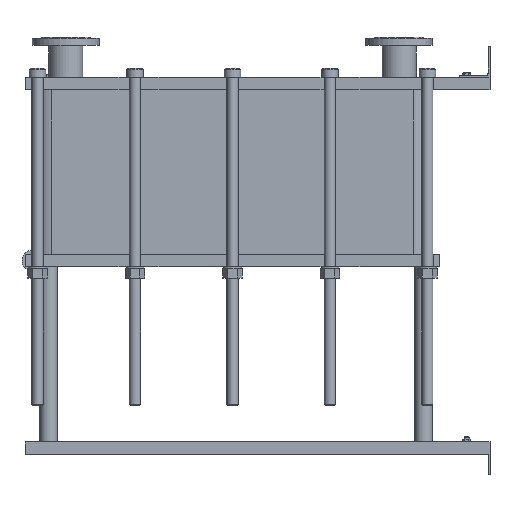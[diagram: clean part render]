
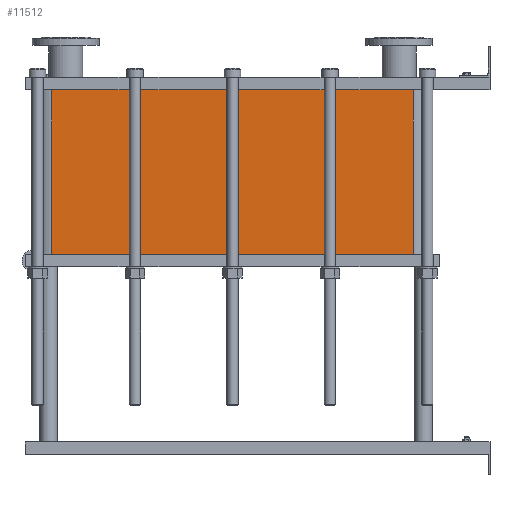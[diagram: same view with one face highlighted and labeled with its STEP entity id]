
A CAD part, left-side view. The second image highlights one B-rep face of the part: STEP entity #11512.
In plain terms, the highlighted planar face has unit normal (-1, 0, 0).
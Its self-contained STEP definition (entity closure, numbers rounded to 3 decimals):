
#1129=LINE('',#23232,#2102);
#1130=LINE('',#23236,#2103);
#1131=LINE('',#23238,#2104);
#1132=LINE('',#23239,#2105);
#2102=VECTOR('',#15887,10.);
#2103=VECTOR('',#15892,10.);
#2104=VECTOR('',#15893,10.);
#2105=VECTOR('',#15894,10.);
#3267=FACE_OUTER_BOUND('',#4093,.T.);
#4093=EDGE_LOOP('',(#10103,#10104,#10105,#10106));
#5642=VERTEX_POINT('',#23229);
#5643=VERTEX_POINT('',#23231);
#5644=VERTEX_POINT('',#23235);
#5645=VERTEX_POINT('',#23237);
#7159=EDGE_CURVE('',#5643,#5642,#1129,.T.);
#7161=EDGE_CURVE('',#5642,#5644,#1130,.T.);
#7162=EDGE_CURVE('',#5645,#5644,#1131,.T.);
#7163=EDGE_CURVE('',#5645,#5643,#1132,.T.);
#10103=ORIENTED_EDGE('',*,*,#7161,.T.);
#10104=ORIENTED_EDGE('',*,*,#7162,.F.);
#10105=ORIENTED_EDGE('',*,*,#7163,.T.);
#10106=ORIENTED_EDGE('',*,*,#7159,.T.);
#10857=PLANE('',#12751);
#11512=ADVANCED_FACE('',(#3267),#10857,.T.);
#12751=AXIS2_PLACEMENT_3D('',#23234,#15890,#15891);
#15887=DIRECTION('',(0.,0.,-1.));
#15890=DIRECTION('center_axis',(-1.,0.,0.));
#15891=DIRECTION('ref_axis',(0.,1.,0.));
#15892=DIRECTION('',(0.,-1.,0.));
#15893=DIRECTION('',(0.,0.,-1.));
#15894=DIRECTION('',(0.,1.,0.));
#23229=CARTESIAN_POINT('',(-200.,1414.,-531.3));
#23231=CARTESIAN_POINT('',(-200.,1414.,0.));
#23232=CARTESIAN_POINT('',(-200.,1414.,0.));
#23234=CARTESIAN_POINT('Origin',(-200.,248.,0.));
#23235=CARTESIAN_POINT('',(-200.,248.,-531.3));
#23236=CARTESIAN_POINT('',(-200.,539.5,-531.3));
#23237=CARTESIAN_POINT('',(-200.,248.,0.));
#23238=CARTESIAN_POINT('',(-200.,248.,0.));
#23239=CARTESIAN_POINT('',(-200.,248.,0.));
